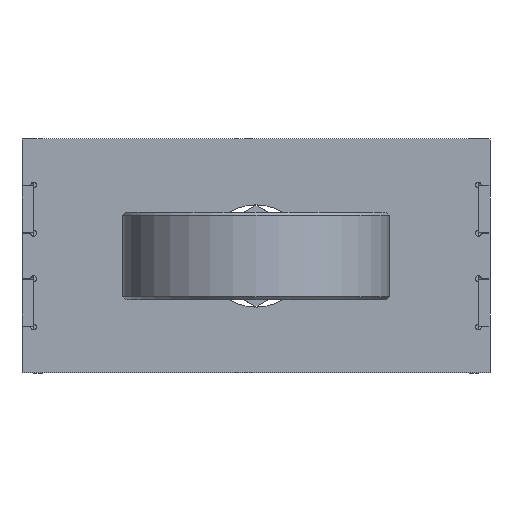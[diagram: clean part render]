
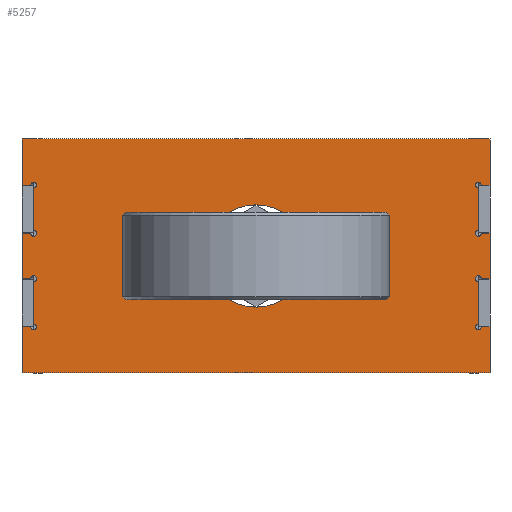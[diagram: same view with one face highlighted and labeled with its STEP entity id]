
A CAD part, front view. The second image highlights one B-rep face of the part: STEP entity #5257.
In plain terms, the highlighted planar face has unit normal (0, -1, 0) as drawn and (0, 0, -1) by its records, which use the part's own axes.
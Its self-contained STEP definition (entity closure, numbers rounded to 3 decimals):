
#360=LINE('',#8736,#778);
#363=LINE('',#8741,#781);
#365=LINE('',#8745,#783);
#368=LINE('',#8750,#786);
#370=LINE('',#8754,#788);
#373=LINE('',#8760,#791);
#376=LINE('',#8766,#794);
#377=LINE('',#8768,#795);
#378=LINE('',#8770,#796);
#379=LINE('',#8771,#797);
#380=LINE('',#8772,#798);
#381=LINE('',#8774,#799);
#382=LINE('',#8775,#800);
#383=LINE('',#8776,#801);
#384=LINE('',#8778,#802);
#385=LINE('',#8780,#803);
#386=LINE('',#8782,#804);
#387=LINE('',#8783,#805);
#388=LINE('',#8785,#806);
#389=LINE('',#8786,#807);
#778=VECTOR('',#6625,3.);
#781=VECTOR('',#6630,14.5);
#783=VECTOR('',#6634,3.);
#786=VECTOR('',#6639,14.5);
#788=VECTOR('',#6643,3.);
#791=VECTOR('',#6648,3.);
#794=VECTOR('',#6653,3.);
#795=VECTOR('',#6654,15.75);
#796=VECTOR('',#6655,160.);
#797=VECTOR('',#6656,15.75);
#798=VECTOR('',#6657,14.5);
#799=VECTOR('',#6658,3.);
#800=VECTOR('',#6659,15.5);
#801=VECTOR('',#6660,14.5);
#802=VECTOR('',#6661,3.);
#803=VECTOR('',#6662,15.75);
#804=VECTOR('',#6663,160.);
#805=VECTOR('',#6664,15.75);
#806=VECTOR('',#6665,3.);
#807=VECTOR('',#6666,15.5);
#1343=FACE_BOUND('',#1974,.T.);
#1344=FACE_BOUND('',#1975,.T.);
#1345=FACE_BOUND('',#1976,.T.);
#1576=FACE_OUTER_BOUND('',#1973,.T.);
#1973=EDGE_LOOP('',(#4249,#4250,#4251,#4252,#4253,#4254,#4255,#4256,#4257,
#4258,#4259,#4260,#4261,#4262,#4263,#4264,#4265,#4266,#4267,#4268,#4269,
#4270,#4271,#4272,#4273,#4274,#4275,#4276));
#1974=EDGE_LOOP('',(#4277));
#1975=EDGE_LOOP('',(#4278));
#1976=EDGE_LOOP('',(#4279));
#2222=CIRCLE('',#5633,5.5);
#2224=CIRCLE('',#5636,5.5);
#2225=CIRCLE('',#5638,17.5);
#2228=CIRCLE('',#5642,1.);
#2230=CIRCLE('',#5645,1.);
#2232=CIRCLE('',#5648,1.);
#2234=CIRCLE('',#5651,1.);
#2236=CIRCLE('',#5654,1.);
#2238=CIRCLE('',#5657,1.);
#2240=CIRCLE('',#5660,1.);
#2242=CIRCLE('',#5663,1.);
#2564=VERTEX_POINT('',#8650);
#2566=VERTEX_POINT('',#8655);
#2567=VERTEX_POINT('',#8658);
#2570=VERTEX_POINT('',#8664);
#2572=VERTEX_POINT('',#8668);
#2574=VERTEX_POINT('',#8673);
#2576=VERTEX_POINT('',#8677);
#2578=VERTEX_POINT('',#8682);
#2580=VERTEX_POINT('',#8686);
#2582=VERTEX_POINT('',#8691);
#2584=VERTEX_POINT('',#8695);
#2586=VERTEX_POINT('',#8700);
#2588=VERTEX_POINT('',#8704);
#2590=VERTEX_POINT('',#8709);
#2592=VERTEX_POINT('',#8713);
#2594=VERTEX_POINT('',#8718);
#2596=VERTEX_POINT('',#8722);
#2598=VERTEX_POINT('',#8727);
#2600=VERTEX_POINT('',#8731);
#2601=VERTEX_POINT('',#8735);
#2603=VERTEX_POINT('',#8744);
#2605=VERTEX_POINT('',#8753);
#2607=VERTEX_POINT('',#8759);
#2609=VERTEX_POINT('',#8765);
#2610=VERTEX_POINT('',#8767);
#2611=VERTEX_POINT('',#8769);
#2612=VERTEX_POINT('',#8773);
#2613=VERTEX_POINT('',#8777);
#2614=VERTEX_POINT('',#8779);
#2615=VERTEX_POINT('',#8781);
#2616=VERTEX_POINT('',#8784);
#3150=EDGE_CURVE('',#2564,#2564,#2222,.T.);
#3152=EDGE_CURVE('',#2566,#2566,#2224,.T.);
#3153=EDGE_CURVE('',#2567,#2567,#2225,.T.);
#3158=EDGE_CURVE('',#2570,#2572,#2228,.T.);
#3162=EDGE_CURVE('',#2574,#2576,#2230,.T.);
#3166=EDGE_CURVE('',#2578,#2580,#2232,.T.);
#3170=EDGE_CURVE('',#2582,#2584,#2234,.T.);
#3174=EDGE_CURVE('',#2586,#2588,#2236,.T.);
#3178=EDGE_CURVE('',#2590,#2592,#2238,.T.);
#3182=EDGE_CURVE('',#2594,#2596,#2240,.T.);
#3186=EDGE_CURVE('',#2598,#2600,#2242,.T.);
#3187=EDGE_CURVE('',#2601,#2574,#360,.T.);
#3190=EDGE_CURVE('',#2576,#2570,#363,.T.);
#3192=EDGE_CURVE('',#2603,#2582,#365,.T.);
#3195=EDGE_CURVE('',#2584,#2578,#368,.T.);
#3197=EDGE_CURVE('',#2605,#2586,#370,.T.);
#3200=EDGE_CURVE('',#2607,#2594,#373,.T.);
#3203=EDGE_CURVE('',#2572,#2609,#376,.T.);
#3204=EDGE_CURVE('',#2609,#2610,#377,.T.);
#3205=EDGE_CURVE('',#2610,#2611,#378,.T.);
#3206=EDGE_CURVE('',#2611,#2605,#379,.T.);
#3207=EDGE_CURVE('',#2588,#2590,#380,.T.);
#3208=EDGE_CURVE('',#2592,#2612,#381,.T.);
#3209=EDGE_CURVE('',#2612,#2607,#382,.T.);
#3210=EDGE_CURVE('',#2596,#2598,#383,.T.);
#3211=EDGE_CURVE('',#2600,#2613,#384,.T.);
#3212=EDGE_CURVE('',#2613,#2614,#385,.T.);
#3213=EDGE_CURVE('',#2614,#2615,#386,.T.);
#3214=EDGE_CURVE('',#2615,#2603,#387,.T.);
#3215=EDGE_CURVE('',#2580,#2616,#388,.T.);
#3216=EDGE_CURVE('',#2616,#2601,#389,.T.);
#4249=ORIENTED_EDGE('',*,*,#3158,.T.);
#4250=ORIENTED_EDGE('',*,*,#3203,.T.);
#4251=ORIENTED_EDGE('',*,*,#3204,.T.);
#4252=ORIENTED_EDGE('',*,*,#3205,.T.);
#4253=ORIENTED_EDGE('',*,*,#3206,.T.);
#4254=ORIENTED_EDGE('',*,*,#3197,.T.);
#4255=ORIENTED_EDGE('',*,*,#3174,.T.);
#4256=ORIENTED_EDGE('',*,*,#3207,.T.);
#4257=ORIENTED_EDGE('',*,*,#3178,.T.);
#4258=ORIENTED_EDGE('',*,*,#3208,.T.);
#4259=ORIENTED_EDGE('',*,*,#3209,.T.);
#4260=ORIENTED_EDGE('',*,*,#3200,.T.);
#4261=ORIENTED_EDGE('',*,*,#3182,.T.);
#4262=ORIENTED_EDGE('',*,*,#3210,.T.);
#4263=ORIENTED_EDGE('',*,*,#3186,.T.);
#4264=ORIENTED_EDGE('',*,*,#3211,.T.);
#4265=ORIENTED_EDGE('',*,*,#3212,.T.);
#4266=ORIENTED_EDGE('',*,*,#3213,.T.);
#4267=ORIENTED_EDGE('',*,*,#3214,.T.);
#4268=ORIENTED_EDGE('',*,*,#3192,.T.);
#4269=ORIENTED_EDGE('',*,*,#3170,.T.);
#4270=ORIENTED_EDGE('',*,*,#3195,.T.);
#4271=ORIENTED_EDGE('',*,*,#3166,.T.);
#4272=ORIENTED_EDGE('',*,*,#3215,.T.);
#4273=ORIENTED_EDGE('',*,*,#3216,.T.);
#4274=ORIENTED_EDGE('',*,*,#3187,.T.);
#4275=ORIENTED_EDGE('',*,*,#3162,.T.);
#4276=ORIENTED_EDGE('',*,*,#3190,.T.);
#4277=ORIENTED_EDGE('',*,*,#3150,.T.);
#4278=ORIENTED_EDGE('',*,*,#3152,.T.);
#4279=ORIENTED_EDGE('',*,*,#3153,.T.);
#4978=PLANE('',#5670);
#5257=ADVANCED_FACE('',(#1576,#1343,#1344,#1345),#4978,.F.);
#5633=AXIS2_PLACEMENT_3D('',#8651,#6545,#6546);
#5636=AXIS2_PLACEMENT_3D('',#8656,#6551,#6552);
#5638=AXIS2_PLACEMENT_3D('',#8659,#6555,#6556);
#5642=AXIS2_PLACEMENT_3D('',#8670,#6565,#6566);
#5645=AXIS2_PLACEMENT_3D('',#8679,#6573,#6574);
#5648=AXIS2_PLACEMENT_3D('',#8688,#6581,#6582);
#5651=AXIS2_PLACEMENT_3D('',#8697,#6589,#6590);
#5654=AXIS2_PLACEMENT_3D('',#8706,#6597,#6598);
#5657=AXIS2_PLACEMENT_3D('',#8715,#6605,#6606);
#5660=AXIS2_PLACEMENT_3D('',#8724,#6613,#6614);
#5663=AXIS2_PLACEMENT_3D('',#8733,#6621,#6622);
#5670=AXIS2_PLACEMENT_3D('',#8764,#6651,#6652);
#6545=DIRECTION('center_axis',(0.,0.,1.));
#6546=DIRECTION('ref_axis',(-1.,0.,0.));
#6551=DIRECTION('center_axis',(0.,0.,1.));
#6552=DIRECTION('ref_axis',(-1.,0.,0.));
#6555=DIRECTION('center_axis',(0.,0.,1.));
#6556=DIRECTION('ref_axis',(1.,0.,0.));
#6565=DIRECTION('center_axis',(0.,0.,1.));
#6566=DIRECTION('ref_axis',(1.,0.,0.));
#6573=DIRECTION('center_axis',(0.,0.,1.));
#6574=DIRECTION('ref_axis',(1.,0.,0.));
#6581=DIRECTION('center_axis',(0.,0.,1.));
#6582=DIRECTION('ref_axis',(1.,0.,0.));
#6589=DIRECTION('center_axis',(0.,0.,1.));
#6590=DIRECTION('ref_axis',(1.,0.,0.));
#6597=DIRECTION('center_axis',(0.,0.,1.));
#6598=DIRECTION('ref_axis',(1.,0.,0.));
#6605=DIRECTION('center_axis',(0.,0.,1.));
#6606=DIRECTION('ref_axis',(1.,0.,0.));
#6613=DIRECTION('center_axis',(0.,0.,1.));
#6614=DIRECTION('ref_axis',(1.,0.,0.));
#6621=DIRECTION('center_axis',(0.,0.,1.));
#6622=DIRECTION('ref_axis',(1.,0.,0.));
#6625=DIRECTION('',(-1.,0.,0.));
#6630=DIRECTION('',(0.,-1.,0.));
#6634=DIRECTION('',(-1.,0.,0.));
#6639=DIRECTION('',(0.,-1.,0.));
#6643=DIRECTION('',(1.,0.,0.));
#6648=DIRECTION('',(1.,0.,0.));
#6651=DIRECTION('center_axis',(0.,0.,1.));
#6652=DIRECTION('ref_axis',(1.,0.,0.));
#6653=DIRECTION('',(1.,0.,0.));
#6654=DIRECTION('',(0.,-1.,0.));
#6655=DIRECTION('',(-1.,0.,0.));
#6656=DIRECTION('',(0.,1.,0.));
#6657=DIRECTION('',(0.,1.,0.));
#6658=DIRECTION('',(-1.,0.,0.));
#6659=DIRECTION('',(0.,1.,0.));
#6660=DIRECTION('',(0.,1.,0.));
#6661=DIRECTION('',(-1.,0.,0.));
#6662=DIRECTION('',(0.,1.,0.));
#6663=DIRECTION('',(1.,0.,0.));
#6664=DIRECTION('',(0.,-1.,0.));
#6665=DIRECTION('',(1.,0.,0.));
#6666=DIRECTION('',(0.,-1.,0.));
#8650=CARTESIAN_POINT('',(-34.5,0.,0.));
#8651=CARTESIAN_POINT('Origin',(-29.,0.,0.));
#8655=CARTESIAN_POINT('',(23.5,0.,0.));
#8656=CARTESIAN_POINT('Origin',(29.,0.,0.));
#8658=CARTESIAN_POINT('',(-17.5,0.,0.));
#8659=CARTESIAN_POINT('Origin',(0.,0.,0.));
#8664=CARTESIAN_POINT('',(76.,-23.25,0.));
#8668=CARTESIAN_POINT('',(77.,-24.25,0.));
#8670=CARTESIAN_POINT('Origin',(76.,-24.25,0.));
#8673=CARTESIAN_POINT('',(77.,-7.75,0.));
#8677=CARTESIAN_POINT('',(76.,-8.75,0.));
#8679=CARTESIAN_POINT('Origin',(76.,-7.75,0.));
#8682=CARTESIAN_POINT('',(76.,8.75,0.));
#8686=CARTESIAN_POINT('',(77.,7.75,0.));
#8688=CARTESIAN_POINT('Origin',(76.,7.75,0.));
#8691=CARTESIAN_POINT('',(77.,24.25,0.));
#8695=CARTESIAN_POINT('',(76.,23.25,0.));
#8697=CARTESIAN_POINT('Origin',(76.,24.25,0.));
#8700=CARTESIAN_POINT('',(-77.,-24.25,0.));
#8704=CARTESIAN_POINT('',(-76.,-23.25,0.));
#8706=CARTESIAN_POINT('Origin',(-76.,-24.25,0.));
#8709=CARTESIAN_POINT('',(-76.,-8.75,0.));
#8713=CARTESIAN_POINT('',(-77.,-7.75,0.));
#8715=CARTESIAN_POINT('Origin',(-76.,-7.75,0.));
#8718=CARTESIAN_POINT('',(-77.,7.75,0.));
#8722=CARTESIAN_POINT('',(-76.,8.75,0.));
#8724=CARTESIAN_POINT('Origin',(-76.,7.75,0.));
#8727=CARTESIAN_POINT('',(-76.,23.25,0.));
#8731=CARTESIAN_POINT('',(-77.,24.25,0.));
#8733=CARTESIAN_POINT('Origin',(-76.,24.25,0.));
#8735=CARTESIAN_POINT('',(80.,-7.75,0.));
#8736=CARTESIAN_POINT('',(80.,-7.75,0.));
#8741=CARTESIAN_POINT('',(76.,-7.75,0.));
#8744=CARTESIAN_POINT('',(80.,24.25,0.));
#8745=CARTESIAN_POINT('',(80.,24.25,0.));
#8750=CARTESIAN_POINT('',(76.,24.25,0.));
#8753=CARTESIAN_POINT('',(-80.,-24.25,0.));
#8754=CARTESIAN_POINT('',(-80.,-24.25,0.));
#8759=CARTESIAN_POINT('',(-80.,7.75,0.));
#8760=CARTESIAN_POINT('',(-80.,7.75,0.));
#8764=CARTESIAN_POINT('Origin',(0.,0.,
0.));
#8765=CARTESIAN_POINT('',(80.,-24.25,0.));
#8766=CARTESIAN_POINT('',(76.,-24.25,0.));
#8767=CARTESIAN_POINT('',(80.,-40.,0.));
#8768=CARTESIAN_POINT('',(80.,-24.25,0.));
#8769=CARTESIAN_POINT('',(-80.,-40.,0.));
#8770=CARTESIAN_POINT('',(80.,-40.,0.));
#8771=CARTESIAN_POINT('',(-80.,-40.,0.));
#8772=CARTESIAN_POINT('',(-76.,-24.25,0.));
#8773=CARTESIAN_POINT('',(-80.,-7.75,0.));
#8774=CARTESIAN_POINT('',(-76.,-7.75,0.));
#8775=CARTESIAN_POINT('',(-80.,-7.75,0.));
#8776=CARTESIAN_POINT('',(-76.,7.75,0.));
#8777=CARTESIAN_POINT('',(-80.,24.25,0.));
#8778=CARTESIAN_POINT('',(-76.,24.25,0.));
#8779=CARTESIAN_POINT('',(-80.,40.,0.));
#8780=CARTESIAN_POINT('',(-80.,24.25,0.));
#8781=CARTESIAN_POINT('',(80.,40.,0.));
#8782=CARTESIAN_POINT('',(-80.,40.,0.));
#8783=CARTESIAN_POINT('',(80.,40.,0.));
#8784=CARTESIAN_POINT('',(80.,7.75,0.));
#8785=CARTESIAN_POINT('',(76.,7.75,0.));
#8786=CARTESIAN_POINT('',(80.,7.75,0.));
